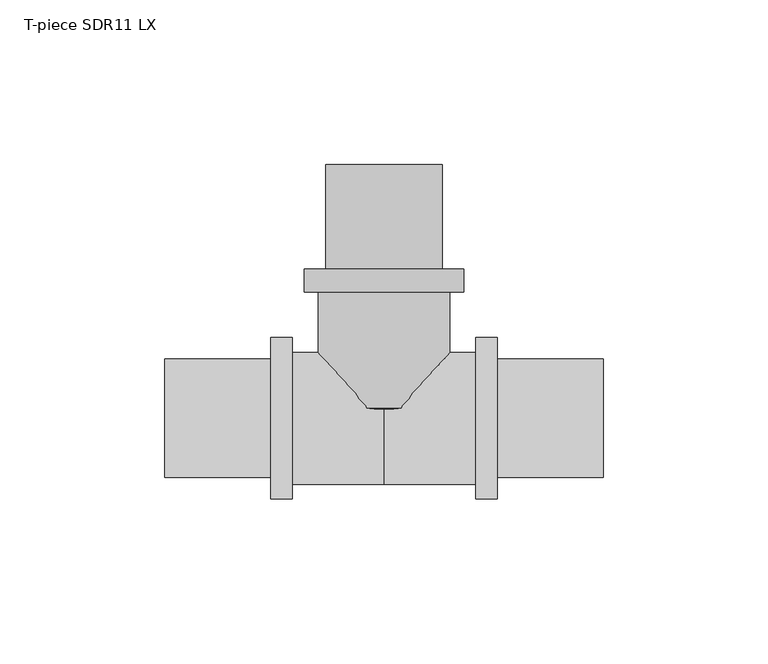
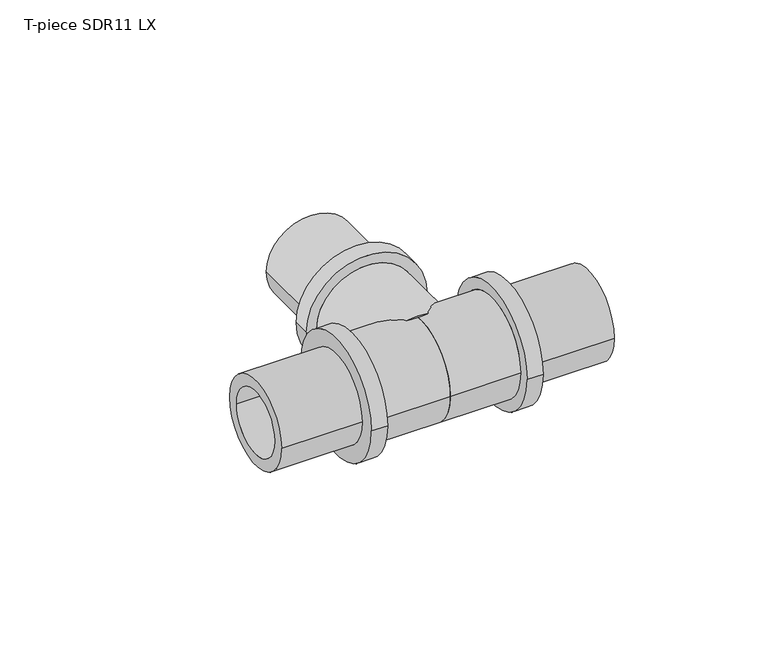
"""IFC4 building model written with IfcOpenShell, lengths in millimetres: pipe fitting geometry, T-piece SDR11 LX : T-piece LX SDR11 LX."""

from ifc_helpers import new_model, si_unit, point, frame, origin, place, context, project, spatial, polyline, circle_curve, ellipse_curve, trimmed, source, transform, mapped, element, save
from ifc_brep_helpers import plane_surface, cylinder_surface, revolved_surface, advanced_brep


def t_piece_sdr11_lx_9701a7f1(model_context):
    return source(origin(), model_context, "Body", "AdvancedBrep", [
        advanced_brep(
        [(20.0, 3.1016592, 0.0), (-20.0, 3.1016592, 0.0), (-20.0, 38.3, 0.0), (20.0, 38.3, 0.0), (13.2, 77.0, 0.0), (-13.2, 77.0, 0.0), (-13.2, 0.0, 0.0), (13.2, 0.0, 0.0), (17.7, 45.3, 0.0), (-17.7, 45.3, 0.0), (-17.7, 77.0, 0.0), (17.7, 77.0, 0.0), (24.15, 38.3, 0.0), (-24.15, 38.3, 0.0), (-24.15, 45.3, 0.0), (24.15, 45.3, 0.0)],
        [
            (0, 1, circle_curve(frame((0.0, 3.1016592, 0.0), z_axis=(0.0, 1.0, 0.0), x_axis=(-1.0, 0.0, 0.0)), 20.0)),
            (1, 2),
            (2, 3, circle_curve(frame((0.0, 38.3, 0.0), z_axis=(0.0, -1.0, 0.0), x_axis=(-1.0, 0.0, 0.0)), 20.0)),
            (3, 0),
            (4, 5, circle_curve(frame((0.0, 77.0, 0.0), z_axis=(0.0, 1.0, 0.0), x_axis=(-1.0, 0.0, 0.0)), 13.2)),
            (5, 6),
            (6, 7, circle_curve(frame((0.0, 0.0, 0.0), z_axis=(0.0, -1.0, 0.0), x_axis=(-1.0, 0.0, 0.0)), 13.2)),
            (7, 4),
            (8, 9, circle_curve(frame((0.0, 45.3, 0.0), z_axis=(0.0, 1.0, 0.0), x_axis=(-1.0, 0.0, 0.0)), 17.7)),
            (9, 10),
            (10, 11, circle_curve(frame((0.0, 77.0, 0.0), z_axis=(0.0, -1.0, 0.0), x_axis=(-1.0, 0.0, 0.0)), 17.7)),
            (11, 8),
            (12, 13, circle_curve(frame((0.0, 38.3, 0.0), z_axis=(0.0, 1.0, 0.0), x_axis=(-1.0, 0.0, 0.0)), 24.15)),
            (13, 14),
            (14, 15, circle_curve(frame((0.0, 45.3, 0.0), z_axis=(0.0, -1.0, 0.0), x_axis=(-1.0, 0.0, 0.0)), 24.15)),
            (15, 12),
            (12, 13, circle_curve(frame((0.0, 38.3, 0.0), z_axis=(0.0, -1.0, 0.0), x_axis=(1.0, 0.0, 0.0)), 24.15)),
            (2, 3, circle_curve(frame((0.0, 38.3, 0.0), z_axis=(0.0, 1.0, 0.0), x_axis=(1.0, 0.0, 0.0)), 20.0)),
            (1, 0, circle_curve(frame((0.0, 3.1016592, 0.0), z_axis=(0.0, 1.0, 0.0), x_axis=(1.0, 0.0, 0.0)), 20.0)),
            (5, 4, circle_curve(frame((0.0, 77.0, 0.0), z_axis=(0.0, 1.0, 0.0), x_axis=(1.0, 0.0, 0.0)), 13.2)),
            (7, 6, circle_curve(frame((0.0, 0.0, 0.0), z_axis=(0.0, -1.0, 0.0), x_axis=(1.0, 0.0, 0.0)), 13.2)),
            (10, 11, circle_curve(frame((0.0, 77.0, 0.0), z_axis=(0.0, 1.0, 0.0), x_axis=(1.0, 0.0, 0.0)), 17.7)),
            (9, 8, circle_curve(frame((0.0, 45.3, 0.0), z_axis=(0.0, 1.0, 0.0), x_axis=(1.0, 0.0, 0.0)), 17.7)),
            (14, 15, circle_curve(frame((0.0, 45.3, 0.0), z_axis=(0.0, 1.0, 0.0), x_axis=(1.0, 0.0, 0.0)), 24.15)),
            (6, 1, circle_curve(frame((-8.4462802, 19.4268409, 0.0), z_axis=(0.0, 0.0, -1.0), x_axis=(0.0, -1.0, 0.0)), 20.0)),
            (0, 7, circle_curve(frame((8.4462802, 19.4268409, 0.0), z_axis=(0.0, 0.0, -1.0), x_axis=(0.0, -1.0, 0.0)), 20.0)),
        ],
        [
            cylinder_surface(frame((0.0, 0.0, 0.0), z_axis=(0.0, -1.0, 0.0), x_axis=(-1.0, 0.0, 0.0)), 20.0),
            revolved_surface(polyline([(-13.2, 0.0, 0.0), (-13.2, 77.0, 0.0)]), (0.0, 0.0, 0.0), (0.0, -1.0, 0.0)),
            cylinder_surface(frame((0.0, 0.0, 0.0), z_axis=(0.0, -1.0, 0.0), x_axis=(-1.0, 0.0, 0.0)), 17.7),
            cylinder_surface(frame((0.0, 0.0, 0.0), z_axis=(0.0, -1.0, 0.0), x_axis=(-1.0, 0.0, 0.0)), 24.15),
            plane_surface(frame((0.0, 38.3, 0.0), z_axis=(0.0, -1.0, 0.0), x_axis=(1.0, 0.0, 0.0))),
            cylinder_surface(frame((0.0, 0.0, 0.0), z_axis=(0.0, -1.0, 0.0), x_axis=(1.0, 0.0, 0.0)), 20.0),
            revolved_surface(polyline([(13.2, 0.0, 0.0), (13.2, 77.0, 0.0)]), (0.0, 0.0, 0.0), (0.0, -1.0, 0.0)),
            plane_surface(frame((0.0, 77.0, 0.0), z_axis=(0.0, 1.0, 0.0), x_axis=(1.0, 0.0, 0.0))),
            cylinder_surface(frame((0.0, 0.0, 0.0), z_axis=(0.0, -1.0, 0.0), x_axis=(1.0, 0.0, 0.0)), 17.7),
            plane_surface(frame((0.0, 45.3, 0.0), z_axis=(0.0, 1.0, 0.0), x_axis=(1.0, 0.0, 0.0))),
            cylinder_surface(frame((0.0, 0.0, 0.0), z_axis=(0.0, -1.0, 0.0), x_axis=(1.0, 0.0, 0.0)), 24.15),
            revolved_surface(trimmed(ellipse_curve(frame((-8.4462802, 19.4268409, 0.0), z_axis=(0.0, 0.0, 1.0), x_axis=(0.0, -1.0, 0.0)), 20.0, 20.0), [point((-20.0, 3.1016592, 0.0))], [point((-13.2, 0.0, 0.0))], True, "CARTESIAN"), (0.0, 0.0, 0.0), (0.0, -1.0, 0.0)),
            revolved_surface(trimmed(ellipse_curve(frame((8.4462802, 19.4268409, 0.0), z_axis=(0.0, 0.0, -1.0), x_axis=(0.0, -1.0, 0.0)), 20.0, 20.0), [point((20.0, 3.1016592, 0.0))], [point((13.2, 0.0, 0.0))], True, "CARTESIAN"), (0.0, 0.0, 0.0), (0.0, -1.0, 0.0)),
        ],
        [
            (0, [[1, 2, 3, 4]]),
            (1, [[5, 6, 7, 8]]),
            (2, [[9, 10, 11, 12]]),
            (3, [[13, 14, 15, 16]]),
            (4, [[17, -13], [18, -3]]),
            (5, [[19, -4, -18, -2]]),
            (6, [[20, -8, 21, -6]]),
            (7, [[22, -11], [-20, -5]]),
            (8, [[23, -12, -22, -10]]),
            (9, [[24, -15], [-23, -9]]),
            (10, [[-17, -16, -24, -14]]),
            (11, [[-7, 25, -1, 26]]),
            (12, [[-21, -26, -19, -25]]),
        ],
    ),
        advanced_brep(
        [(27.9, 20.0, 0.0), (27.9, -20.0, 0.0), (0.0, -20.0, 0.0), (0.0, 20.0, 0.0), (0.0, 13.2, 0.0), (0.0, -13.2, 0.0), (66.5, -13.2, 0.0), (66.5, 13.2, 0.0), (66.5, 17.95, 0.0), (66.5, -17.95, 0.0), (34.3, -17.95, 0.0), (34.3, 17.95, 0.0), (34.3, 24.5, 0.0), (34.3, -24.5, 0.0), (27.9, -24.5, 0.0), (27.9, 24.5, 0.0)],
        [
            (0, 1, circle_curve(frame((27.9, 0.0, 0.0), z_axis=(-1.0, 0.0, 0.0), x_axis=(0.0, -1.0, 0.0)), 20.0)),
            (1, 2),
            (2, 3, circle_curve(frame((0.0, 0.0, 0.0), z_axis=(1.0, 0.0, 0.0), x_axis=(0.0, -1.0, 0.0)), 20.0)),
            (3, 0),
            (4, 5, circle_curve(frame((0.0, 0.0, 0.0), z_axis=(-1.0, 0.0, 0.0), x_axis=(0.0, -1.0, 0.0)), 13.2)),
            (5, 6),
            (6, 7, circle_curve(frame((66.5, 0.0, 0.0), z_axis=(1.0, 0.0, 0.0), x_axis=(0.0, -1.0, 0.0)), 13.2)),
            (7, 4),
            (8, 9, circle_curve(frame((66.5, 0.0, 0.0), z_axis=(-1.0, 0.0, 0.0), x_axis=(0.0, -1.0, 0.0)), 17.95)),
            (9, 10),
            (10, 11, circle_curve(frame((34.3, 0.0, 0.0), z_axis=(1.0, 0.0, 0.0), x_axis=(0.0, -1.0, 0.0)), 17.95)),
            (11, 8),
            (12, 13, circle_curve(frame((34.3, 0.0, 0.0), z_axis=(-1.0, 0.0, 0.0), x_axis=(0.0, -1.0, 0.0)), 24.5)),
            (13, 14),
            (14, 15, circle_curve(frame((27.9, 0.0, 0.0), z_axis=(1.0, 0.0, 0.0), x_axis=(0.0, -1.0, 0.0)), 24.5)),
            (15, 12),
            (14, 15, circle_curve(frame((27.9, 0.0, 0.0), z_axis=(-1.0, 0.0, 0.0), x_axis=(0.0, 1.0, 0.0)), 24.5)),
            (0, 1, circle_curve(frame((27.9, 0.0, 0.0), z_axis=(1.0, 0.0, 0.0), x_axis=(0.0, 1.0, 0.0)), 20.0)),
            (3, 2, circle_curve(frame((0.0, 0.0, 0.0), z_axis=(1.0, 0.0, 0.0), x_axis=(0.0, 1.0, 0.0)), 20.0)),
            (4, 5, circle_curve(frame((0.0, 0.0, 0.0), z_axis=(1.0, 0.0, 0.0), x_axis=(0.0, 1.0, 0.0)), 13.2)),
            (7, 6, circle_curve(frame((66.5, 0.0, 0.0), z_axis=(1.0, 0.0, 0.0), x_axis=(0.0, 1.0, 0.0)), 13.2)),
            (8, 9, circle_curve(frame((66.5, 0.0, 0.0), z_axis=(1.0, 0.0, 0.0), x_axis=(0.0, 1.0, 0.0)), 17.95)),
            (11, 10, circle_curve(frame((34.3, 0.0, 0.0), z_axis=(1.0, 0.0, 0.0), x_axis=(0.0, 1.0, 0.0)), 17.95)),
            (12, 13, circle_curve(frame((34.3, 0.0, 0.0), z_axis=(1.0, 0.0, 0.0), x_axis=(0.0, 1.0, 0.0)), 24.5)),
        ],
        [
            cylinder_surface(frame((0.0, 0.0, 0.0), z_axis=(1.0, 0.0, 0.0), x_axis=(0.0, -1.0, 0.0)), 20.0),
            revolved_surface(polyline([(66.5, -13.2, 0.0), (0.0, -13.2, 0.0)]), (0.0, 0.0, 0.0), (1.0, 0.0, 0.0)),
            cylinder_surface(frame((0.0, 0.0, 0.0), z_axis=(1.0, 0.0, 0.0), x_axis=(0.0, -1.0, 0.0)), 17.95),
            cylinder_surface(frame((0.0, 0.0, 0.0), z_axis=(1.0, 0.0, 0.0), x_axis=(0.0, -1.0, 0.0)), 24.5),
            plane_surface(frame((27.9, 0.0, 0.0), z_axis=(-1.0, 0.0, 0.0), x_axis=(0.0, 1.0, 0.0))),
            cylinder_surface(frame((0.0, 0.0, 0.0), z_axis=(1.0, 0.0, 0.0), x_axis=(0.0, 1.0, 0.0)), 20.0),
            plane_surface(frame((0.0, 0.0, 0.0), z_axis=(-1.0, 0.0, 0.0), x_axis=(0.0, 1.0, 0.0))),
            revolved_surface(polyline([(66.5, 13.2, 0.0), (0.0, 13.2, 0.0)]), (0.0, 0.0, 0.0), (1.0, 0.0, 0.0)),
            plane_surface(frame((66.5, 0.0, 0.0), z_axis=(1.0, 0.0, 0.0), x_axis=(0.0, 1.0, 0.0))),
            cylinder_surface(frame((0.0, 0.0, 0.0), z_axis=(1.0, 0.0, 0.0), x_axis=(0.0, 1.0, 0.0)), 17.95),
            plane_surface(frame((34.3, 0.0, 0.0), z_axis=(1.0, 0.0, 0.0), x_axis=(0.0, 1.0, 0.0))),
            cylinder_surface(frame((0.0, 0.0, 0.0), z_axis=(1.0, 0.0, 0.0), x_axis=(0.0, 1.0, 0.0)), 24.5),
        ],
        [
            (0, [[1, 2, 3, 4]]),
            (1, [[5, 6, 7, 8]]),
            (2, [[9, 10, 11, 12]]),
            (3, [[13, 14, 15, 16]]),
            (4, [[17, -15], [18, -1]]),
            (5, [[-18, -4, 19, -2]]),
            (6, [[-19, -3], [20, -5]]),
            (7, [[-20, -8, 21, -6]]),
            (8, [[22, -9], [-21, -7]]),
            (9, [[-22, -12, 23, -10]]),
            (10, [[24, -13], [-23, -11]]),
            (11, [[-24, -16, -17, -14]]),
        ],
    ),
        advanced_brep(
        [(0.0, 20.0, 0.0), (0.0, -20.0, 0.0), (-27.9, -20.0, 0.0), (-27.9, 20.0, 0.0), (-66.5, 13.2, 0.0), (-66.5, -13.2, 0.0), (0.0, -13.2, 0.0), (0.0, 13.2, 0.0), (-34.3, 17.95, 0.0), (-34.3, -17.95, 0.0), (-66.5, -17.95, 0.0), (-66.5, 17.95, 0.0), (-27.9, 24.5, 0.0), (-27.9, -24.5, 0.0), (-34.3, -24.5, 0.0), (-34.3, 24.5, 0.0)],
        [
            (0, 1, circle_curve(frame((0.0, 0.0, 0.0), z_axis=(-1.0, 0.0, 0.0), x_axis=(0.0, -1.0, 0.0)), 20.0)),
            (1, 2),
            (2, 3, circle_curve(frame((-27.9, 0.0, 0.0), z_axis=(1.0, 0.0, 0.0), x_axis=(0.0, -1.0, 0.0)), 20.0)),
            (3, 0),
            (4, 5, circle_curve(frame((-66.5, 0.0, 0.0), z_axis=(-1.0, 0.0, 0.0), x_axis=(0.0, -1.0, 0.0)), 13.2)),
            (5, 6),
            (6, 7, circle_curve(frame((0.0, 0.0, 0.0), z_axis=(1.0, 0.0, 0.0), x_axis=(0.0, -1.0, 0.0)), 13.2)),
            (7, 4),
            (8, 9, circle_curve(frame((-34.3, 0.0, 0.0), z_axis=(-1.0, 0.0, 0.0), x_axis=(0.0, -1.0, 0.0)), 17.95)),
            (9, 10),
            (10, 11, circle_curve(frame((-66.5, 0.0, 0.0), z_axis=(1.0, 0.0, 0.0), x_axis=(0.0, -1.0, 0.0)), 17.95)),
            (11, 8),
            (12, 13, circle_curve(frame((-27.9, 0.0, 0.0), z_axis=(-1.0, 0.0, 0.0), x_axis=(0.0, -1.0, 0.0)), 24.5)),
            (13, 14),
            (14, 15, circle_curve(frame((-34.3, 0.0, 0.0), z_axis=(1.0, 0.0, 0.0), x_axis=(0.0, -1.0, 0.0)), 24.5)),
            (15, 12),
            (12, 13, circle_curve(frame((-27.9, 0.0, 0.0), z_axis=(1.0, 0.0, 0.0), x_axis=(0.0, 1.0, 0.0)), 24.5)),
            (2, 3, circle_curve(frame((-27.9, 0.0, 0.0), z_axis=(-1.0, 0.0, 0.0), x_axis=(0.0, 1.0, 0.0)), 20.0)),
            (1, 0, circle_curve(frame((0.0, 0.0, 0.0), z_axis=(-1.0, 0.0, 0.0), x_axis=(0.0, 1.0, 0.0)), 20.0)),
            (6, 7, circle_curve(frame((0.0, 0.0, 0.0), z_axis=(-1.0, 0.0, 0.0), x_axis=(0.0, 1.0, 0.0)), 13.2)),
            (5, 4, circle_curve(frame((-66.5, 0.0, 0.0), z_axis=(-1.0, 0.0, 0.0), x_axis=(0.0, 1.0, 0.0)), 13.2)),
            (10, 11, circle_curve(frame((-66.5, 0.0, 0.0), z_axis=(-1.0, 0.0, 0.0), x_axis=(0.0, 1.0, 0.0)), 17.95)),
            (9, 8, circle_curve(frame((-34.3, 0.0, 0.0), z_axis=(-1.0, 0.0, 0.0), x_axis=(0.0, 1.0, 0.0)), 17.95)),
            (14, 15, circle_curve(frame((-34.3, 0.0, 0.0), z_axis=(-1.0, 0.0, 0.0), x_axis=(0.0, 1.0, 0.0)), 24.5)),
        ],
        [
            cylinder_surface(frame((0.0, 0.0, 0.0), z_axis=(1.0, 0.0, 0.0), x_axis=(0.0, -1.0, 0.0)), 20.0),
            revolved_surface(polyline([(0.0, -13.2, 0.0), (-66.5, -13.2, 0.0)]), (0.0, 0.0, 0.0), (1.0, 0.0, 0.0)),
            cylinder_surface(frame((0.0, 0.0, 0.0), z_axis=(1.0, 0.0, 0.0), x_axis=(0.0, -1.0, 0.0)), 17.95),
            cylinder_surface(frame((0.0, 0.0, 0.0), z_axis=(1.0, 0.0, 0.0), x_axis=(0.0, -1.0, 0.0)), 24.5),
            plane_surface(frame((-27.9, 0.0, 0.0), z_axis=(1.0, 0.0, 0.0), x_axis=(0.0, 1.0, 0.0))),
            cylinder_surface(frame((0.0, 0.0, 0.0), z_axis=(1.0, 0.0, 0.0), x_axis=(0.0, 1.0, 0.0)), 20.0),
            plane_surface(frame((0.0, 0.0, 0.0), z_axis=(1.0, 0.0, 0.0), x_axis=(0.0, 1.0, 0.0))),
            revolved_surface(polyline([(0.0, 13.2, 0.0), (-66.5, 13.2, 0.0)]), (0.0, 0.0, 0.0), (1.0, 0.0, 0.0)),
            plane_surface(frame((-66.5, 0.0, 0.0), z_axis=(-1.0, 0.0, 0.0), x_axis=(0.0, 1.0, 0.0))),
            cylinder_surface(frame((0.0, 0.0, 0.0), z_axis=(1.0, 0.0, 0.0), x_axis=(0.0, 1.0, 0.0)), 17.95),
            plane_surface(frame((-34.3, 0.0, 0.0), z_axis=(-1.0, 0.0, 0.0), x_axis=(0.0, 1.0, 0.0))),
            cylinder_surface(frame((0.0, 0.0, 0.0), z_axis=(1.0, 0.0, 0.0), x_axis=(0.0, 1.0, 0.0)), 24.5),
        ],
        [
            (0, [[1, 2, 3, 4]]),
            (1, [[5, 6, 7, 8]]),
            (2, [[9, 10, 11, 12]]),
            (3, [[13, 14, 15, 16]]),
            (4, [[17, -13], [18, -3]]),
            (5, [[19, -4, -18, -2]]),
            (6, [[-19, -1], [20, -7]]),
            (7, [[21, -8, -20, -6]]),
            (8, [[22, -11], [-21, -5]]),
            (9, [[23, -12, -22, -10]]),
            (10, [[24, -15], [-23, -9]]),
            (11, [[-17, -16, -24, -14]]),
        ],
    ),
    ])


if __name__ == "__main__":
    model = new_model("IFC4")
    model_context = context("Model", 3, world=origin())
    ifc_project = project(units=[si_unit("LENGTHUNIT", "METRE", prefix="MILLI")], contexts=[model_context])
    site = spatial("IfcSite", under=ifc_project)
    building = spatial("IfcBuilding", under=site)
    placement = place(None, origin())
    t_piece_sdr11_lx_shape = t_piece_sdr11_lx_9701a7f1(model_context)
    element("IfcPipeFitting", 1, ObjectType="T-piece SDR11 LX : T-piece LX SDR11 LX", at=placement, inside=building, context=model_context, shape_type="MappedRepresentation", body=[
        mapped(t_piece_sdr11_lx_shape, transform((0.0, 0.0, 0.0), x_axis=(1.0, 0.0, 0.0), y_axis=(0.0, 1.0, 0.0), z_axis=(0.0, 0.0, 1.0))),
    ])
    save(model, "model.ifc")
